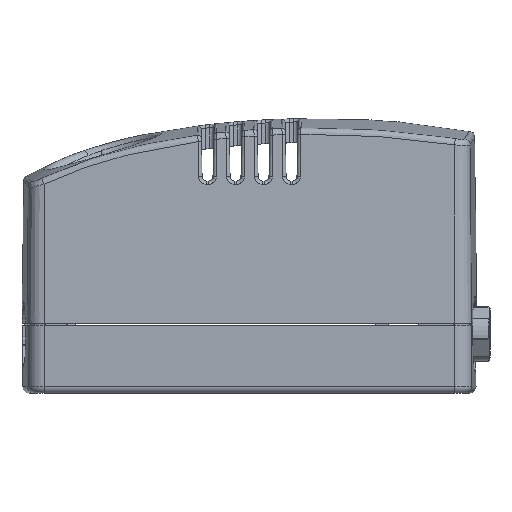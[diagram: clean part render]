
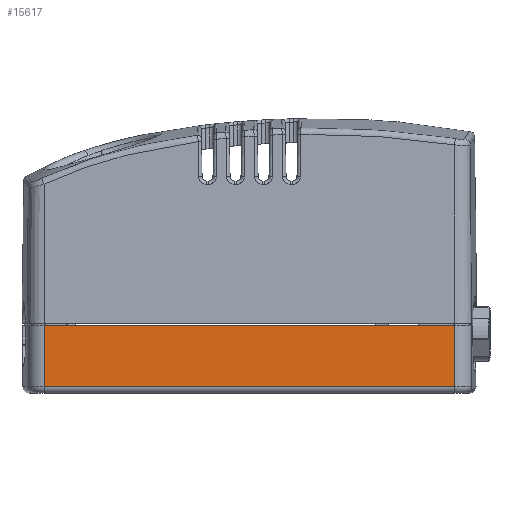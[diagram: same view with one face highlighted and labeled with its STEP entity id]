
A CAD part, left-side view. The second image highlights one B-rep face of the part: STEP entity #15617.
In plain terms, the highlighted planar face has unit normal (-1, 0, 0).
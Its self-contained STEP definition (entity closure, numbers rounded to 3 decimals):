
#369 = DIRECTION ( 'NONE',  ( 0., 0., -1. ) ) ;
#1886 = VECTOR ( 'NONE', #17939, 1000. ) ;
#1955 = VECTOR ( 'NONE', #369, 1000. ) ;
#2293 = LINE ( 'NONE', #5953, #11911 ) ;
#3163 = EDGE_CURVE ( 'NONE', #16006, #4015, #16816, .T. ) ;
#4015 = VERTEX_POINT ( 'NONE', #16819 ) ;
#5326 = ORIENTED_EDGE ( 'NONE', *, *, #15804, .T. ) ;
#5953 = CARTESIAN_POINT ( 'NONE',  ( -124.5, -190.404, 10. ) ) ;
#6182 = FACE_OUTER_BOUND ( 'NONE', #15968, .T. ) ;
#6296 = LINE ( 'NONE', #16513, #1886 ) ;
#8823 = CARTESIAN_POINT ( 'NONE',  ( -124.5, 205., 8. ) ) ;
#10369 = DIRECTION ( 'NONE',  ( 1., 0., 0. ) ) ;
#10397 = ORIENTED_EDGE ( 'NONE', *, *, #15309, .T. ) ;
#10917 = CARTESIAN_POINT ( 'NONE',  ( -124.5, -190.404, -49. ) ) ;
#11001 = VERTEX_POINT ( 'NONE', #15002 ) ;
#11259 = DIRECTION ( 'NONE',  ( 0., -1., 0. ) ) ;
#11911 = VECTOR ( 'NONE', #21898, 1000. ) ;
#14159 = PLANE ( 'NONE',  #17754 ) ;
#15002 = CARTESIAN_POINT ( 'NONE',  ( -124.5, 190.404, -49. ) ) ;
#15309 = EDGE_CURVE ( 'NONE', #18769, #4015, #2293, .T. ) ;
#15617 = ADVANCED_FACE ( 'NONE', ( #6182 ), #14159, .F. ) ;
#15804 = EDGE_CURVE ( 'NONE', #11001, #18769, #6296, .T. ) ;
#15968 = EDGE_LOOP ( 'NONE', ( #17981, #5326, #10397, #22489 ) ) ;
#16006 = VERTEX_POINT ( 'NONE', #16225 ) ;
#16225 = CARTESIAN_POINT ( 'NONE',  ( -124.5, 190.404, 8. ) ) ;
#16513 = CARTESIAN_POINT ( 'NONE',  ( -124.5, -190.404, -49. ) ) ;
#16816 = LINE ( 'NONE', #8823, #20623 ) ;
#16819 = CARTESIAN_POINT ( 'NONE',  ( -124.5, -190.404, 8. ) ) ;
#17754 = AXIS2_PLACEMENT_3D ( 'NONE', #22124, #10369, #18348 ) ;
#17939 = DIRECTION ( 'NONE',  ( 0., -1., 0. ) ) ;
#17981 = ORIENTED_EDGE ( 'NONE', *, *, #21725, .T. ) ;
#18348 = DIRECTION ( 'NONE',  ( 0., 1., 0. ) ) ;
#18769 = VERTEX_POINT ( 'NONE', #10917 ) ;
#20517 = LINE ( 'NONE', #24307, #1955 ) ;
#20623 = VECTOR ( 'NONE', #11259, 1000. ) ;
#21725 = EDGE_CURVE ( 'NONE', #16006, #11001, #20517, .T. ) ;
#21898 = DIRECTION ( 'NONE',  ( 0., 0., 1. ) ) ;
#22124 = CARTESIAN_POINT ( 'NONE',  ( -124.5, 205., 10. ) ) ;
#22489 = ORIENTED_EDGE ( 'NONE', *, *, #3163, .F. ) ;
#24307 = CARTESIAN_POINT ( 'NONE',  ( -124.5, 190.404, 10. ) ) ;
